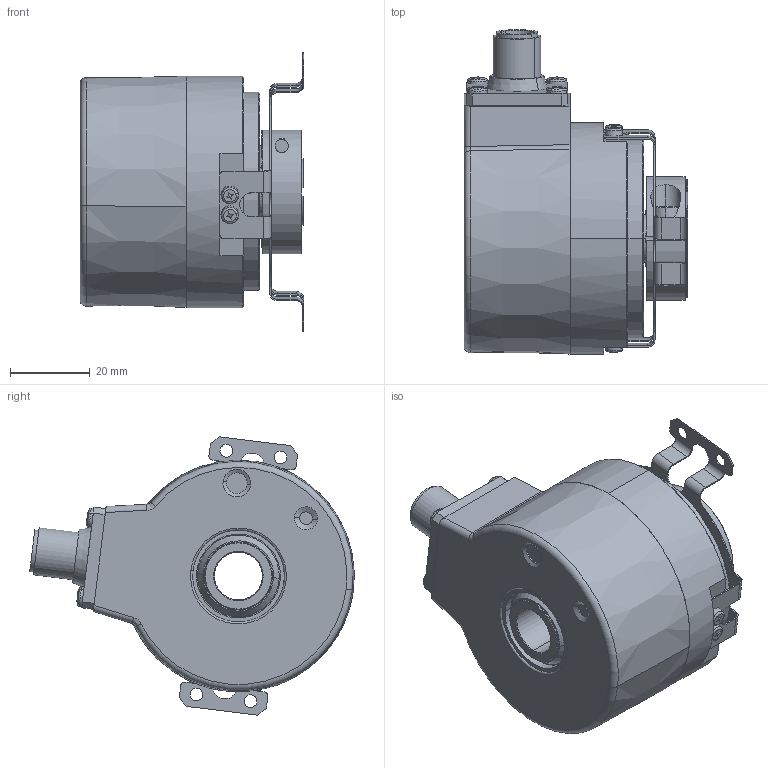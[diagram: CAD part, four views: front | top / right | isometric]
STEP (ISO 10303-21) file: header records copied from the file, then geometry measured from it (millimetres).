
FILE_DESCRIPTION (( 'STEP AP214' ), '1' );
FILE_NAME ('5834SIL.B4X6.XXXX.STEP', '2010-11-18T13:05:42', ( 'admin' ), ( 'Fritz Kübler GmbH' ), 'SwSTEP 2.0', 'SolidWorks 2009', '' );
FILE_SCHEMA (( 'AUTOMOTIVE_DESIGN' ));
Length unit declared in the file: millimetre
Products named in the file (1): 5834SIL.B4X6.XXXX
Bounding box: 56 x 81.25 x 69.69 mm (x, y, z)
Surface area: 26481.9 mm2 (no closed solid volume)
Topology: 0 solids, 26 shells, 494 faces, 1370 edges, 881 vertices
Faces by surface type: plane 234, cylinder 150, cone 54, sphere 24, torus 24, bspline 8
Entity records: 22324 total; most frequent: CARTESIAN_POINT 4234, DIRECTION 2795, ORIENTED_EDGE 2417, EDGE_CURVE 1338, AXIS2_PLACEMENT_3D 1042, VERTEX_POINT 865, VECTOR 711, LINE 711
